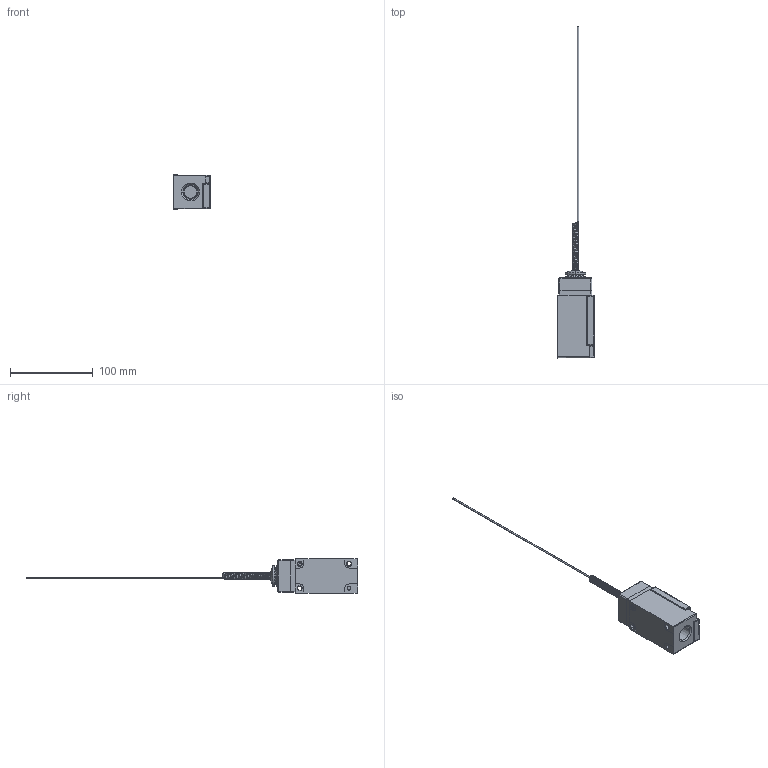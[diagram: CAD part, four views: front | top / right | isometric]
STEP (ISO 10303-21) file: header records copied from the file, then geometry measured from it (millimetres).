
FILE_DESCRIPTION((''),'2;1');
FILE_NAME('LSJ3K-7M','2012-12-06T',('E522935'),(''),'PRO/ENGINEER BY PARAMETRIC TECHNOLOGY CORPORATION, 2009460','PRO/ENGINEER BY PARAMETRIC TECHNOLOGY CORPORATION, 2009460','');
FILE_SCHEMA(('CONFIG_CONTROL_DESIGN'));
Length unit declared in the file: inch
Products named in the file (1): LSJ3K-7M
Bounding box: 44.32 x 400.48 x 41.15 mm (x, y, z)
Volume: 164176.8 mm3; surface area: 31631.2 mm2
Topology: 2 solids, 2 shells, 462 faces, 1134 edges, 681 vertices
Faces by surface type: plane 238, cylinder 138, cone 36, sphere 22, bspline 18, torus 8, revolution 2
Entity records: 24400 total; most frequent: CARTESIAN_POINT 13620, ORIENTED_EDGE 2248, DIRECTION 2244, EDGE_CURVE 1124, AXIS2_PLACEMENT_3D 821, VERTEX_POINT 681, VECTOR 600, LINE 600
